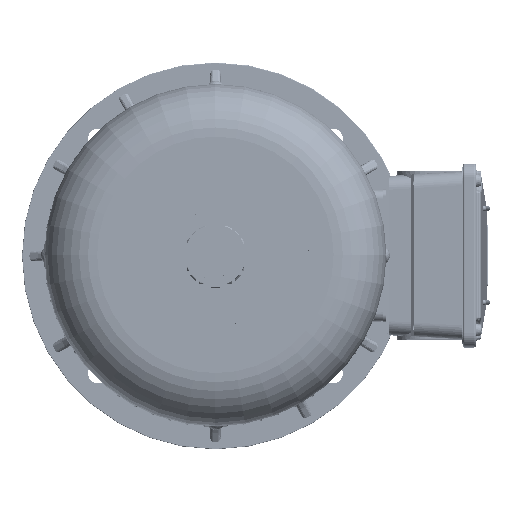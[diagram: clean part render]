
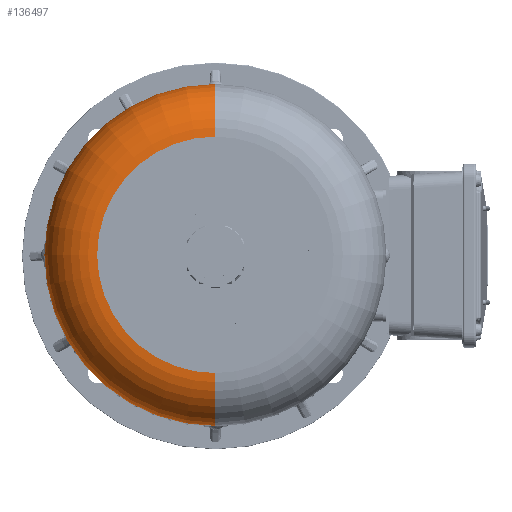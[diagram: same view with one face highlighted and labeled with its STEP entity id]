
A CAD part, top view. The second image highlights one B-rep face of the part: STEP entity #136497.
In plain terms, the highlighted toroidal (fillet/blend) face has major radius 107 mm and minor radius 47.7 mm.
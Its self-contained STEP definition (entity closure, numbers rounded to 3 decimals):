
#520 = CIRCLE ( 'NONE', #148076, 107. ) ;
#3498 = VERTEX_POINT ( 'NONE', #154617 ) ;
#3859 = CARTESIAN_POINT ( 'NONE',  ( 0., 0., 0. ) ) ;
#22115 = DIRECTION ( 'NONE',  ( 0., 0., 1. ) ) ;
#25004 = CARTESIAN_POINT ( 'NONE',  ( 0., 47.7, -107. ) ) ;
#28405 = CARTESIAN_POINT ( 'NONE',  ( 0., 47.7, -154.7 ) ) ;
#36390 = CIRCLE ( 'NONE', #201828, 47.7 ) ;
#38873 = ORIENTED_EDGE ( 'NONE', *, *, #72983, .F. ) ;
#43312 = DIRECTION ( 'NONE',  ( 0., 0., -1. ) ) ;
#44109 = FACE_OUTER_BOUND ( 'NONE', #94267, .T. ) ;
#50925 = DIRECTION ( 'NONE',  ( -1., 0., 0. ) ) ;
#59782 = EDGE_CURVE ( 'NONE', #3498, #109818, #520, .T. ) ;
#72983 = EDGE_CURVE ( 'NONE', #3498, #222898, #85248, .T. ) ;
#77248 = CIRCLE ( 'NONE', #139417, 154.7 ) ;
#77928 = AXIS2_PLACEMENT_3D ( 'NONE', #160165, #50925, #178497 ) ;
#83088 = DIRECTION ( 'NONE',  ( 0., 1., 0. ) ) ;
#83606 = AXIS2_PLACEMENT_3D ( 'NONE', #192267, #83088, #138124 ) ;
#85248 = CIRCLE ( 'NONE', #77928, 47.7 ) ;
#88871 = EDGE_CURVE ( 'NONE', #109818, #177092, #36390, .T. ) ;
#93402 = CARTESIAN_POINT ( 'NONE',  ( 0., 47.7, 154.7 ) ) ;
#94267 = EDGE_LOOP ( 'NONE', ( #217933, #116096, #136199, #38873 ) ) ;
#97996 = DIRECTION ( 'NONE',  ( 0., 1., 0. ) ) ;
#100414 = CARTESIAN_POINT ( 'NONE',  ( 0., 0., -107. ) ) ;
#104107 = TOROIDAL_SURFACE ( 'NONE', #83606, 107., 47.7 ) ;
#109818 = VERTEX_POINT ( 'NONE', #100414 ) ;
#116096 = ORIENTED_EDGE ( 'NONE', *, *, #88871, .T. ) ;
#131351 = DIRECTION ( 'NONE',  ( 0., 1., 0. ) ) ;
#131573 = EDGE_CURVE ( 'NONE', #222898, #177092, #77248, .T. ) ;
#136199 = ORIENTED_EDGE ( 'NONE', *, *, #131573, .F. ) ;
#136497 = ADVANCED_FACE ( 'NONE', ( #44109 ), #104107, .T. ) ;
#138124 = DIRECTION ( 'NONE',  ( 0., 0., 1. ) ) ;
#139417 = AXIS2_PLACEMENT_3D ( 'NONE', #207174, #97996, #225609 ) ;
#148076 = AXIS2_PLACEMENT_3D ( 'NONE', #3859, #131351, #22115 ) ;
#152505 = DIRECTION ( 'NONE',  ( 1., 0., 0. ) ) ;
#154617 = CARTESIAN_POINT ( 'NONE',  ( 0., 0., 107. ) ) ;
#160165 = CARTESIAN_POINT ( 'NONE',  ( 0., 47.7, 107. ) ) ;
#177092 = VERTEX_POINT ( 'NONE', #28405 ) ;
#178497 = DIRECTION ( 'NONE',  ( 0., 0., 1. ) ) ;
#192267 = CARTESIAN_POINT ( 'NONE',  ( 0., 47.7, 0. ) ) ;
#201828 = AXIS2_PLACEMENT_3D ( 'NONE', #25004, #152505, #43312 ) ;
#207174 = CARTESIAN_POINT ( 'NONE',  ( 0., 47.7, 0. ) ) ;
#217933 = ORIENTED_EDGE ( 'NONE', *, *, #59782, .T. ) ;
#222898 = VERTEX_POINT ( 'NONE', #93402 ) ;
#225609 = DIRECTION ( 'NONE',  ( 0., 0., 1. ) ) ;
